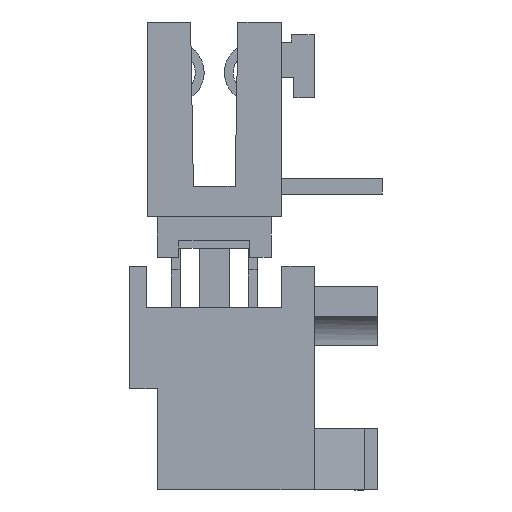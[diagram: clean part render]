
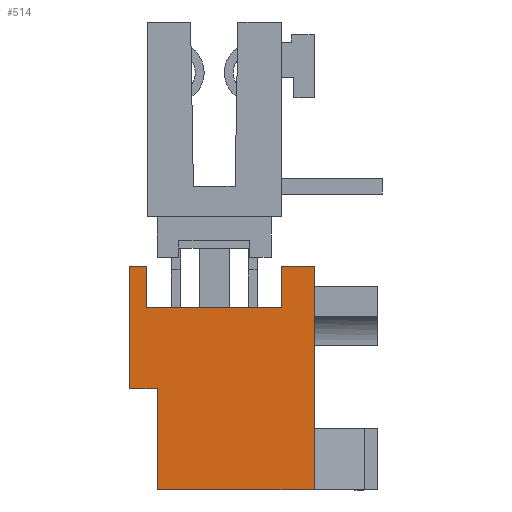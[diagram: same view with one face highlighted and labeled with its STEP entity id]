
A CAD part, left-side view. The second image highlights one B-rep face of the part: STEP entity #514.
In plain terms, the highlighted planar face has unit normal (-1, 0, 0).
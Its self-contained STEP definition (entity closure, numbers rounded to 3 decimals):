
#514=ADVANCED_FACE('',(#3292),#2035,.T.);
#2035=PLANE('',#31652);
#3292=FACE_OUTER_BOUND('',#4864,.T.);
#4864=EDGE_LOOP('',(#7700,#7701,#7702,#7703,#7704,#7705,#7706,#7707,#7708,
#7709,#7710));
#7700=ORIENTED_EDGE('',*,*,#19721,.T.);
#7701=ORIENTED_EDGE('',*,*,#19018,.T.);
#7702=ORIENTED_EDGE('',*,*,#19720,.F.);
#7703=ORIENTED_EDGE('',*,*,#19606,.T.);
#7704=ORIENTED_EDGE('',*,*,#19722,.T.);
#7705=ORIENTED_EDGE('',*,*,#19723,.T.);
#7706=ORIENTED_EDGE('',*,*,#19546,.F.);
#7707=ORIENTED_EDGE('',*,*,#19724,.T.);
#7708=ORIENTED_EDGE('',*,*,#19725,.T.);
#7709=ORIENTED_EDGE('',*,*,#19726,.T.);
#7710=ORIENTED_EDGE('',*,*,#19727,.T.);
#16004=VERTEX_POINT('',#41723);
#16005=VERTEX_POINT('',#41724);
#16520=VERTEX_POINT('',#42801);
#16521=VERTEX_POINT('',#42803);
#16547=VERTEX_POINT('',#42890);
#16548=VERTEX_POINT('',#42892);
#16650=VERTEX_POINT('',#43130);
#16651=VERTEX_POINT('',#43132);
#16652=VERTEX_POINT('',#43135);
#16653=VERTEX_POINT('',#43137);
#16654=VERTEX_POINT('',#43139);
#19018=EDGE_CURVE('',#16004,#16005,#23549,.T.);
#19546=EDGE_CURVE('',#16520,#16521,#24076,.T.);
#19606=EDGE_CURVE('',#16548,#16547,#24136,.T.);
#19720=EDGE_CURVE('',#16548,#16005,#24250,.T.);
#19721=EDGE_CURVE('',#16650,#16004,#24251,.T.);
#19722=EDGE_CURVE('',#16547,#16651,#24252,.T.);
#19723=EDGE_CURVE('',#16651,#16521,#24253,.T.);
#19724=EDGE_CURVE('',#16520,#16652,#24254,.T.);
#19725=EDGE_CURVE('',#16652,#16653,#24255,.T.);
#19726=EDGE_CURVE('',#16653,#16654,#24256,.T.);
#19727=EDGE_CURVE('',#16654,#16650,#24257,.T.);
#23549=LINE('',#41722,#27573);
#24076=LINE('',#42802,#28100);
#24136=LINE('',#42891,#28160);
#24250=LINE('',#43127,#28274);
#24251=LINE('',#43129,#28275);
#24252=LINE('',#43131,#28276);
#24253=LINE('',#43133,#28277);
#24254=LINE('',#43134,#28278);
#24255=LINE('',#43136,#28279);
#24256=LINE('',#43138,#28280);
#24257=LINE('',#43140,#28281);
#27573=VECTOR('',#33633,1.);
#28100=VECTOR('',#34232,1.);
#28160=VECTOR('',#34296,1.);
#28274=VECTOR('',#34450,1.);
#28275=VECTOR('',#34453,1.);
#28276=VECTOR('',#34454,1.);
#28277=VECTOR('',#34455,1.);
#28278=VECTOR('',#34456,1.);
#28279=VECTOR('',#34457,1.);
#28280=VECTOR('',#34458,1.);
#28281=VECTOR('',#34459,1.);
#31652=AXIS2_PLACEMENT_3D('',#43141,#34460,#34461);
#33633=DIRECTION('',(0.,0.,1.));
#34232=DIRECTION('',(0.,-1.,0.));
#34296=DIRECTION('',(0.,0.,-1.));
#34450=DIRECTION('',(0.,-1.,0.));
#34453=DIRECTION('',(0.,0.,1.));
#34454=DIRECTION('',(0.,1.,0.));
#34455=DIRECTION('',(0.,0.,1.));
#34456=DIRECTION('',(0.,0.,-1.));
#34457=DIRECTION('',(0.,-1.,0.));
#34458=DIRECTION('',(0.,0.,-1.));
#34459=DIRECTION('',(0.,-1.,0.));
#34460=DIRECTION('',(-1.,0.,0.));
#34461=DIRECTION('',(0.,0.,1.));
#41722=CARTESIAN_POINT('',(-27.45,2.5,0.));
#41723=CARTESIAN_POINT('',(-27.45,2.5,2.45));
#41724=CARTESIAN_POINT('',(-27.45,2.5,8.85));
#42801=CARTESIAN_POINT('',(-27.45,9.8,8.85));
#42802=CARTESIAN_POINT('',(-27.45,9.8,8.85));
#42803=CARTESIAN_POINT('',(-27.45,9.125,8.85));
#42890=CARTESIAN_POINT('',(-27.45,3.775,7.2));
#42891=CARTESIAN_POINT('',(-27.45,3.775,8.85));
#42892=CARTESIAN_POINT('',(-27.45,3.775,8.85));
#43127=CARTESIAN_POINT('',(-27.45,9.8,8.85));
#43129=CARTESIAN_POINT('',(-27.45,2.5,0.));
#43130=CARTESIAN_POINT('',(-27.45,2.5,0.));
#43131=CARTESIAN_POINT('',(-27.45,3.775,7.2));
#43132=CARTESIAN_POINT('',(-27.45,9.125,7.2));
#43133=CARTESIAN_POINT('',(-27.45,9.125,7.2));
#43134=CARTESIAN_POINT('',(-27.45,9.8,8.85));
#43135=CARTESIAN_POINT('',(-27.45,9.8,4.));
#43136=CARTESIAN_POINT('',(-27.45,9.8,4.));
#43137=CARTESIAN_POINT('',(-27.45,8.7,4.));
#43138=CARTESIAN_POINT('',(-27.45,8.7,4.));
#43139=CARTESIAN_POINT('',(-27.45,8.7,0.));
#43140=CARTESIAN_POINT('',(-27.45,9.8,0.));
#43141=CARTESIAN_POINT('',(-27.45,9.8,8.85));
